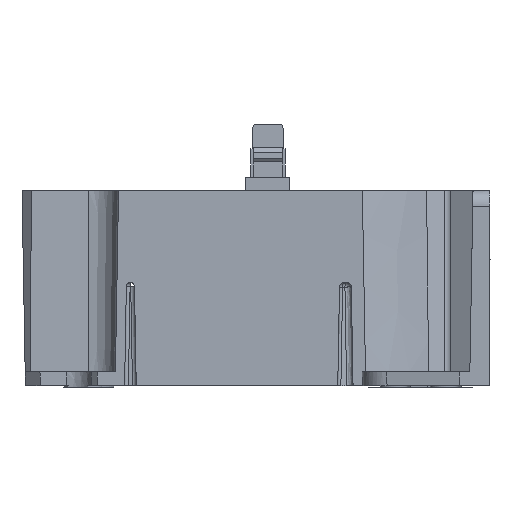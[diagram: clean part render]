
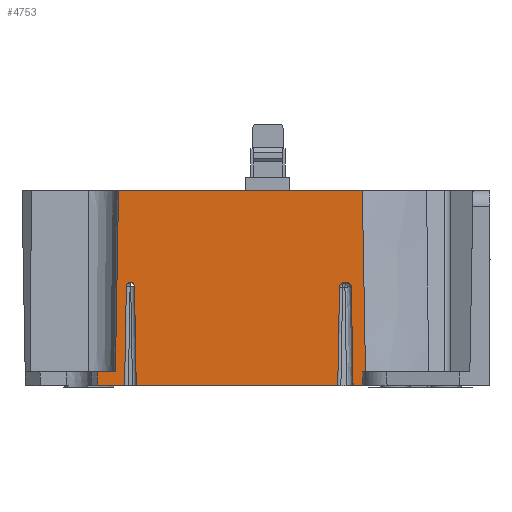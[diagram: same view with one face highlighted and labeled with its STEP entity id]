
A CAD part, left-side view. The second image highlights one B-rep face of the part: STEP entity #4753.
In plain terms, the highlighted planar face has unit normal (-1, 0, -0.018).
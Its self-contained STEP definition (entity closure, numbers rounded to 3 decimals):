
#236=CARTESIAN_POINT('',(-34.459,-15.038,-31.0));
#237=VERTEX_POINT('',#236);
#244=CARTESIAN_POINT('',(-34.459,-13.526,-31.0));
#245=VERTEX_POINT('',#244);
#246=CARTESIAN_POINT('',(-34.459,-15.038,-31.));
#247=DIRECTION('',(0.0,1.0,0.0));
#248=VECTOR('',#247,1.512);
#249=LINE('',#246,#248);
#250=EDGE_CURVE('',#245,#237,#249,.F.);
#317=CARTESIAN_POINT('',(-34.459,-11.096,-31.0));
#318=VERTEX_POINT('',#317);
#325=CARTESIAN_POINT('',(-34.459,20.939,-31.0));
#326=VERTEX_POINT('',#325);
#327=CARTESIAN_POINT('',(-34.459,-11.096,-31.));
#328=DIRECTION('',(0.0,1.0,0.0));
#329=VECTOR('',#328,32.035);
#330=LINE('',#327,#329);
#331=EDGE_CURVE('',#326,#318,#330,.F.);
#367=CARTESIAN_POINT('',(-34.459,22.791,-31.0));
#368=VERTEX_POINT('',#367);
#375=CARTESIAN_POINT('',(-34.459,27.116,-31.0));
#376=VERTEX_POINT('',#375);
#377=CARTESIAN_POINT('',(-34.459,22.791,-31.));
#378=DIRECTION('',(0.0,1.0,0.0));
#379=VECTOR('',#378,4.325);
#380=LINE('',#377,#379);
#381=EDGE_CURVE('',#376,#368,#380,.F.);
#4278=CARTESIAN_POINT('',(-34.745,-12.119,-14.626));
#4279=VERTEX_POINT('',#4278);
#4280=CARTESIAN_POINT('',(-34.732,-11.369,-15.363));
#4281=VERTEX_POINT('',#4280);
#4282=CARTESIAN_POINT('',(-34.732,-12.119,-15.376));
#4283=DIRECTION('',(-1.,0.,-0.017));
#4284=DIRECTION('',(0.,1.0,0.));
#4285=AXIS2_PLACEMENT_3D('',#4282,#4283,#4284);
#4286=ELLIPSE('',#4285,0.75,0.75);
#4287=EDGE_CURVE('',#4279,#4281,#4286,.T.);
#4352=CARTESIAN_POINT('',(-34.732,-13.253,-15.363));
#4353=VERTEX_POINT('',#4352);
#4354=CARTESIAN_POINT('',(-34.745,-12.503,-14.626));
#4355=VERTEX_POINT('',#4354);
#4356=CARTESIAN_POINT('',(-34.732,-12.503,-15.376));
#4357=DIRECTION('',(-1.,0.,-0.017));
#4358=DIRECTION('',(0.,-1.0,0.));
#4359=AXIS2_PLACEMENT_3D('',#4356,#4357,#4358);
#4360=ELLIPSE('',#4359,0.75,0.75);
#4361=EDGE_CURVE('',#4353,#4355,#4360,.T.);
#4431=CARTESIAN_POINT('',(-34.732,-13.253,-15.363));
#4432=DIRECTION('',(0.017,-0.017,-1.));
#4433=VECTOR('',#4432,15.642);
#4434=LINE('',#4431,#4433);
#4435=EDGE_CURVE('',#4353,#245,#4434,.T.);
#4514=CARTESIAN_POINT('',(-34.745,21.915,-14.626));
#4515=VERTEX_POINT('',#4514);
#4516=CARTESIAN_POINT('',(-34.734,22.515,-15.215));
#4517=VERTEX_POINT('',#4516);
#4518=CARTESIAN_POINT('',(-34.734,21.915,-15.226));
#4519=DIRECTION('',(-1.,0.,-0.017));
#4520=DIRECTION('',(-0.012,0.701,0.713));
#4521=AXIS2_PLACEMENT_3D('',#4518,#4519,#4520);
#4522=CIRCLE('',#4521,0.6);
#4523=EDGE_CURVE('',#4515,#4517,#4522,.T.);
#4546=CARTESIAN_POINT('',(-34.734,21.214,-15.215));
#4547=VERTEX_POINT('',#4546);
#4548=CARTESIAN_POINT('',(-34.745,21.814,-14.626));
#4549=VERTEX_POINT('',#4548);
#4550=CARTESIAN_POINT('',(-34.734,21.814,-15.226));
#4551=DIRECTION('',(-1.,0.,-0.017));
#4552=DIRECTION('',(-0.012,-0.701,0.713));
#4553=AXIS2_PLACEMENT_3D('',#4550,#4551,#4552);
#4554=CIRCLE('',#4553,0.6);
#4555=EDGE_CURVE('',#4547,#4549,#4554,.T.);
#4621=CARTESIAN_POINT('',(-34.734,21.214,-15.215));
#4622=DIRECTION('',(0.017,-0.017,-1.));
#4623=VECTOR('',#4622,15.789);
#4624=LINE('',#4621,#4623);
#4625=EDGE_CURVE('',#4547,#326,#4624,.T.);
#4653=CARTESIAN_POINT('',(-34.459,-11.096,-31.));
#4654=DIRECTION('',(-0.017,-0.017,1.));
#4655=VECTOR('',#4654,15.642);
#4656=LINE('',#4653,#4655);
#4657=EDGE_CURVE('',#318,#4281,#4656,.T.);
#4664=CARTESIAN_POINT('',(-35.0,39.1,0.));
#4665=DIRECTION('',(-1.,0.,-0.017));
#4666=DIRECTION('',(-0.017,0.,1.));
#4667=AXIS2_PLACEMENT_3D('',#4664,#4665,#4666);
#4668=PLANE('',#4667);
#4669=ORIENTED_EDGE('',*,*,#4657,.T.);
#4670=ORIENTED_EDGE('',*,*,#4287,.F.);
#4671=CARTESIAN_POINT('',(-34.745,-12.119,-14.626));
#4672=DIRECTION('',(0.0,-1.0,0.0));
#4673=VECTOR('',#4672,0.384);
#4674=LINE('',#4671,#4673);
#4675=EDGE_CURVE('',#4279,#4355,#4674,.T.);
#4676=ORIENTED_EDGE('',*,*,#4675,.T.);
#4677=ORIENTED_EDGE('',*,*,#4361,.F.);
#4678=ORIENTED_EDGE('',*,*,#4435,.T.);
#4679=ORIENTED_EDGE('',*,*,#250,.T.);
#4680=CARTESIAN_POINT('',(-34.497,-15.,-28.8));
#4681=VERTEX_POINT('',#4680);
#4682=CARTESIAN_POINT('',(-34.497,-15.,-28.8));
#4683=DIRECTION('',(0.017,-0.017,-1.));
#4684=VECTOR('',#4683,2.201);
#4685=LINE('',#4682,#4684);
#4686=EDGE_CURVE('',#237,#4681,#4685,.F.);
#4687=ORIENTED_EDGE('',*,*,#4686,.T.);
#4688=CARTESIAN_POINT('',(-34.497,-15.503,-28.8));
#4689=VERTEX_POINT('',#4688);
#4690=CARTESIAN_POINT('',(-34.497,-15.,-28.8));
#4691=DIRECTION('',(0.0,-1.0,0.0));
#4692=VECTOR('',#4691,0.503);
#4693=LINE('',#4690,#4692);
#4694=EDGE_CURVE('',#4689,#4681,#4693,.F.);
#4695=ORIENTED_EDGE('',*,*,#4694,.F.);
#4696=CARTESIAN_POINT('',(-35.,-15.0,0.0));
#4697=VERTEX_POINT('',#4696);
#4698=CARTESIAN_POINT('',(-34.497,-15.503,-28.8));
#4699=DIRECTION('',(-0.017,0.017,1.));
#4700=VECTOR('',#4699,28.809);
#4701=LINE('',#4698,#4700);
#4702=EDGE_CURVE('',#4689,#4697,#4701,.T.);
#4703=ORIENTED_EDGE('',*,*,#4702,.T.);
#4704=CARTESIAN_POINT('',(-35.,23.75,0.0));
#4705=VERTEX_POINT('',#4704);
#4706=CARTESIAN_POINT('',(-35.,-15.0,0.0));
#4707=DIRECTION('',(0.0,1.0,0.0));
#4708=VECTOR('',#4707,38.75);
#4709=LINE('',#4706,#4708);
#4710=EDGE_CURVE('',#4697,#4705,#4709,.T.);
#4711=ORIENTED_EDGE('',*,*,#4710,.T.);
#4712=CARTESIAN_POINT('',(-34.497,24.253,-28.8));
#4713=VERTEX_POINT('',#4712);
#4714=CARTESIAN_POINT('',(-35.0,23.75,0.));
#4715=DIRECTION('',(0.017,0.017,-1.));
#4716=VECTOR('',#4715,28.809);
#4717=LINE('',#4714,#4716);
#4718=EDGE_CURVE('',#4705,#4713,#4717,.T.);
#4719=ORIENTED_EDGE('',*,*,#4718,.T.);
#4720=CARTESIAN_POINT('',(-34.497,27.132,-28.8));
#4721=VERTEX_POINT('',#4720);
#4722=CARTESIAN_POINT('',(-34.497,24.253,-28.8));
#4723=DIRECTION('',(0.0,1.0,0.0));
#4724=VECTOR('',#4723,2.879);
#4725=LINE('',#4722,#4724);
#4726=EDGE_CURVE('',#4713,#4721,#4725,.T.);
#4727=ORIENTED_EDGE('',*,*,#4726,.T.);
#4728=CARTESIAN_POINT('',(-34.497,27.132,-28.8));
#4729=DIRECTION('',(0.017,-0.007,-1.));
#4730=VECTOR('',#4729,2.2);
#4731=LINE('',#4728,#4730);
#4732=EDGE_CURVE('',#4721,#376,#4731,.T.);
#4733=ORIENTED_EDGE('',*,*,#4732,.T.);
#4734=ORIENTED_EDGE('',*,*,#381,.T.);
#4735=CARTESIAN_POINT('',(-34.459,22.791,-31.));
#4736=DIRECTION('',(-0.017,-0.017,1.));
#4737=VECTOR('',#4736,15.789);
#4738=LINE('',#4735,#4737);
#4739=EDGE_CURVE('',#368,#4517,#4738,.T.);
#4740=ORIENTED_EDGE('',*,*,#4739,.T.);
#4741=ORIENTED_EDGE('',*,*,#4523,.F.);
#4742=CARTESIAN_POINT('',(-34.745,21.915,-14.626));
#4743=DIRECTION('',(0.0,-1.0,0.0));
#4744=VECTOR('',#4743,0.101);
#4745=LINE('',#4742,#4744);
#4746=EDGE_CURVE('',#4515,#4549,#4745,.T.);
#4747=ORIENTED_EDGE('',*,*,#4746,.T.);
#4748=ORIENTED_EDGE('',*,*,#4555,.F.);
#4749=ORIENTED_EDGE('',*,*,#4625,.T.);
#4750=ORIENTED_EDGE('',*,*,#331,.T.);
#4751=EDGE_LOOP('',(#4669,#4670,#4676,#4677,#4678,#4679,#4687,#4695,#4703,#4711,#4719,#4727,#4733,#4734,#4740,#4741,#4747,#4748,#4749,#4750));
#4752=FACE_OUTER_BOUND('',#4751,.T.);
#4753=ADVANCED_FACE('',(#4752),#4668,.T.);
